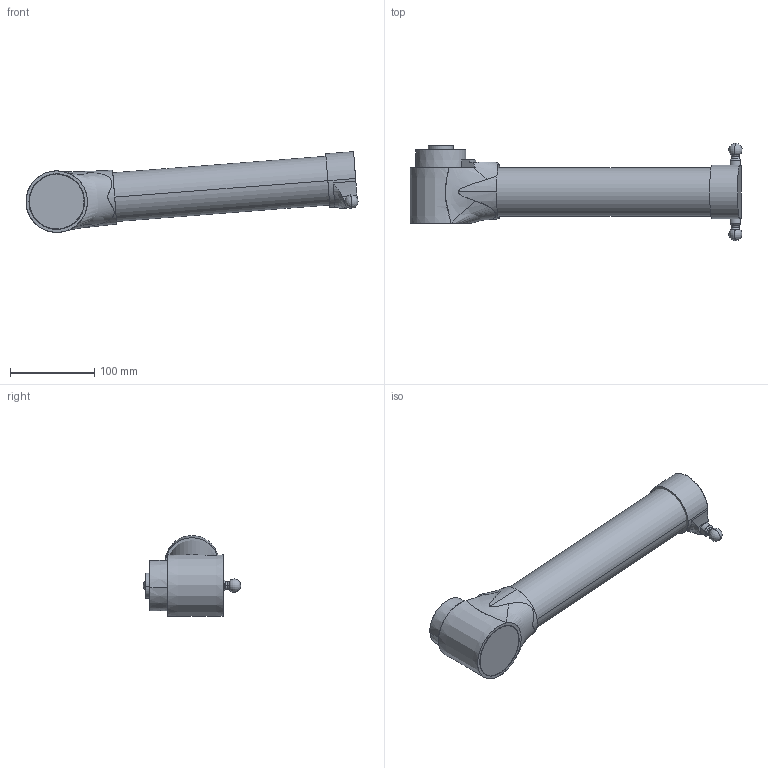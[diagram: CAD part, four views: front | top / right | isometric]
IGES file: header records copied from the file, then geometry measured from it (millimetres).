
Start section: SolidWorks IGES file using analytic representation for surfaces
Global section: file name: C:\Users\SELUHAA\Desktop\Work items\545792\IGES\IRB360_X-1130-WDS-4D_rev03_IGES_J\IRB360_X-1130-WDS-4D_rev03_UA1_CAD.IGS; native system: SolidWorks 2022; preprocessor: SolidWorks 2022; author: SELUHAA; date: 231204.111942; units: millimetre
Bounding box: 394.33 x 115.88 x 95.87 mm (x, y, z)
Surface area: 128597.9 mm2 (no closed solid volume)
Topology: 0 solids, 0 shells, 86 faces, 1875 edges, 1873 vertices
Faces by surface type: revolution 44, bspline 42
